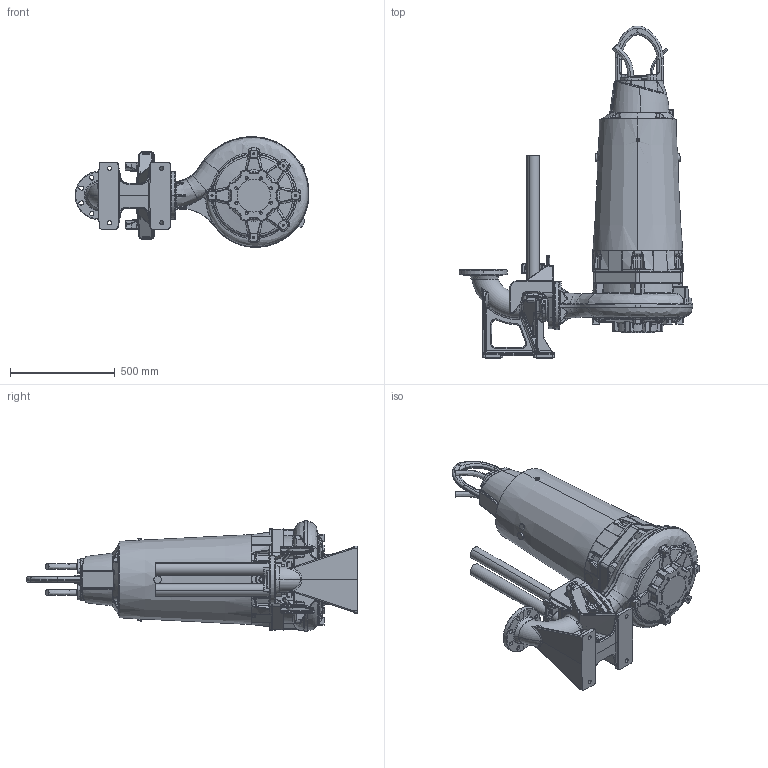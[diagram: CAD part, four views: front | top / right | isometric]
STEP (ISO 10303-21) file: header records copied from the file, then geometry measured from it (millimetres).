
FILE_DESCRIPTION (( 'STEP AP214' ), '1' );
FILE_NAME ('PE4_XFP100J-CH1_WET 2guide_A_NG2.STEP', '2017-02-23T07:37:14', ( '' ), ( '' ), 'SwSTEP 2.0', 'SolidWorks 2017', '' );
FILE_SCHEMA (( 'AUTOMOTIVE_DESIGN' ));
Length unit declared in the file: millimetre
Products named in the file (1): PE4_XFP100J-CH1_WET 2guide_A_NG2
Bounding box: 1118.28 x 1587.4 x 529.04 mm (x, y, z)
Volume: 168066540 mm3; surface area: 3607578.1 mm2
Topology: 4 solids, 12 shells, 3862 faces, 9457 edges, 5518 vertices
Faces by surface type: bspline 1306, cylinder 914, plane 813, torus 351, cone 337, sphere 141
Entity records: 249831 total; most frequent: CARTESIAN_POINT 127466, ORIENTED_EDGE 18574, DIRECTION 14412, EDGE_CURVE 9287, AXIS2_PLACEMENT_3D 5860, VERTEX_POINT 5514, EDGE_LOOP 4003, UNCERTAINTY_MEASURE_WITH_UNIT 3868
